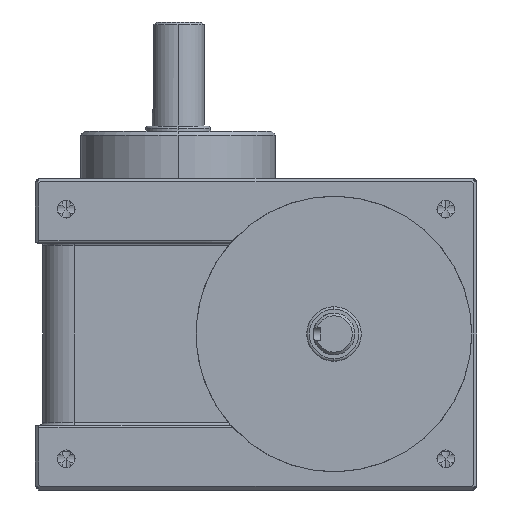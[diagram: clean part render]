
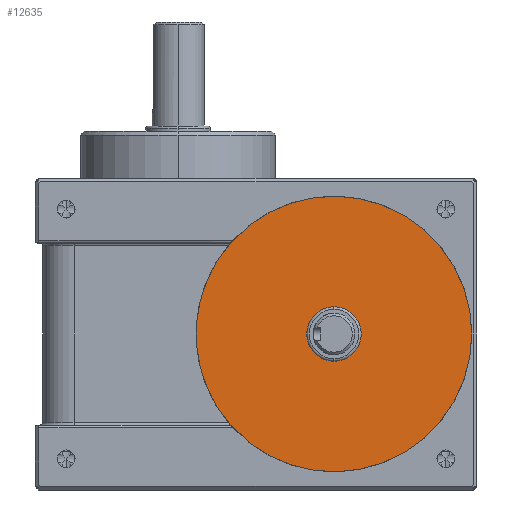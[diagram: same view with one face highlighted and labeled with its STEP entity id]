
A CAD part, left-side view. The second image highlights one B-rep face of the part: STEP entity #12635.
In plain terms, the highlighted planar face has unit normal (-1, 0, 0).
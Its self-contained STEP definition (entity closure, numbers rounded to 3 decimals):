
#4436=CARTESIAN_POINT('',(-54.,-30.,-60.));
#4437=DIRECTION('',(-1.,0.,0.));
#4438=DIRECTION('',(0.,0.751,-0.66));
#4439=AXIS2_PLACEMENT_3D('',#4436,#4437,#4438);
#4649=CARTESIAN_POINT('',(-54.,-30.,-60.));
#4650=DIRECTION('',(-1.,0.,0.));
#4651=DIRECTION('',(0.,0.,1.));
#4652=AXIS2_PLACEMENT_3D('',#4649,#4650,#4651);
#4654=CARTESIAN_POINT('',(-54.,-30.,-60.));
#4655=DIRECTION('',(-1.,0.,0.));
#4656=DIRECTION('',(0.,0.,-1.));
#4657=AXIS2_PLACEMENT_3D('',#4654,#4655,#4656);
#4659=CARTESIAN_POINT('',(-54.,-30.,-60.));
#4660=DIRECTION('',(-1.,0.,0.));
#4661=DIRECTION('',(0.,0.751,0.66));
#4662=AXIS2_PLACEMENT_3D('',#4659,#4660,#4661);
#5758=CARTESIAN_POINT('',(-54.,-30.,-49.5));
#5759=CARTESIAN_POINT('',(-54.,-30.,-70.5));
#5760=VERTEX_POINT('',#5758);
#5761=VERTEX_POINT('',#5759);
#5798=CARTESIAN_POINT('',(-54.,9.799,-25.));
#5799=CARTESIAN_POINT('',(-54.,9.799,-95.));
#5800=VERTEX_POINT('',#5798);
#5801=VERTEX_POINT('',#5799);
#12620=CARTESIAN_POINT('',(-54.,0.,0.));
#12621=DIRECTION('',(-1.,0.,0.));
#12622=DIRECTION('',(0.,0.,1.));
#12623=AXIS2_PLACEMENT_3D('',#12620,#12621,#12622);
#12624=PLANE('',#12623);
#12625=ORIENTED_EDGE('',*,*,#12348,.F.);
#12626=ORIENTED_EDGE('',*,*,#12609,.F.);
#12627=EDGE_LOOP('',(#12625,#12626));
#12628=FACE_OUTER_BOUND('',#12627,.F.);
#12630=ORIENTED_EDGE('',*,*,#12629,.T.);
#12632=ORIENTED_EDGE('',*,*,#12631,.T.);
#12633=EDGE_LOOP('',(#12630,#12632));
#12634=FACE_BOUND('',#12633,.F.);
#4440=CIRCLE('',#4439,53.);
#4653=CIRCLE('',#4652,10.5);
#4658=CIRCLE('',#4657,10.5);
#4663=CIRCLE('',#4662,53.);
#12348=EDGE_CURVE('',#5801,#5800,#4440,.T.);
#12609=EDGE_CURVE('',#5800,#5801,#4663,.T.);
#12629=EDGE_CURVE('',#5760,#5761,#4653,.T.);
#12631=EDGE_CURVE('',#5761,#5760,#4658,.T.);
#12635=ADVANCED_FACE('',(#12628,#12634),#12624,.T.);
